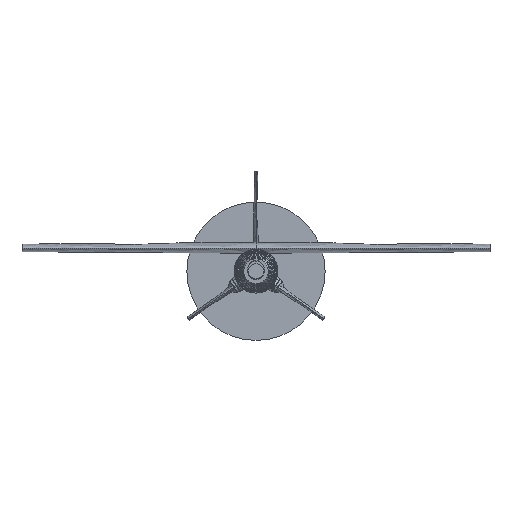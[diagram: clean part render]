
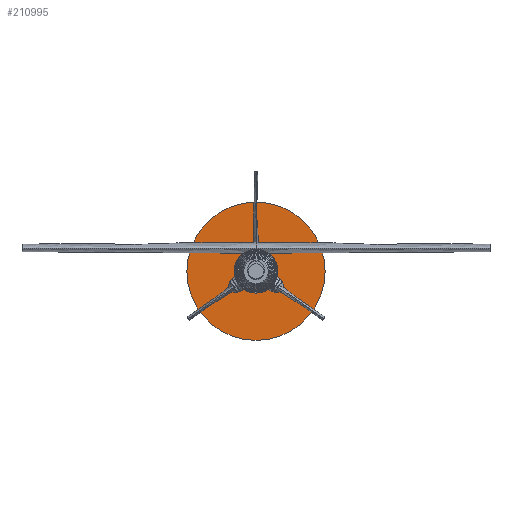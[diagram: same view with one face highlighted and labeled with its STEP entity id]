
A CAD part, left-side view. The second image highlights one B-rep face of the part: STEP entity #210995.
In plain terms, the highlighted planar face has unit normal (-1, 0, 0).
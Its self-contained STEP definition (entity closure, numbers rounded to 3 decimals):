
#210917 = CYLINDRICAL_SURFACE('',#210918,63.5);
#210918 = AXIS2_PLACEMENT_3D('',#210919,#210920,#210921);
#210919 = CARTESIAN_POINT('',(467.55,0.,0.));
#210920 = DIRECTION('',(1.,0.,0.));
#210921 = DIRECTION('',(-0.,0.,1.));
#210942 = VERTEX_POINT('',#210943);
#210943 = CARTESIAN_POINT('',(467.55,0.,63.5));
#210964 = EDGE_CURVE('',#210942,#210942,#210965,.T.);
#210965 = SURFACE_CURVE('',#210966,(#210971,#210978),.PCURVE_S1.);
#210966 = CIRCLE('',#210967,63.5);
#210967 = AXIS2_PLACEMENT_3D('',#210968,#210969,#210970);
#210968 = CARTESIAN_POINT('',(467.55,0.,0.));
#210969 = DIRECTION('',(1.,0.,0.));
#210970 = DIRECTION('',(-0.,0.,1.));
#210971 = PCURVE('',#210917,#210972);
#210972 = DEFINITIONAL_REPRESENTATION('',(#210973),#210977);
#210973 = LINE('',#210974,#210975);
#210974 = CARTESIAN_POINT('',(0.,0.));
#210975 = VECTOR('',#210976,1.);
#210976 = DIRECTION('',(1.,0.));
#210977 = ( GEOMETRIC_REPRESENTATION_CONTEXT(2) 
PARAMETRIC_REPRESENTATION_CONTEXT() REPRESENTATION_CONTEXT('2D SPACE',''
  ) );
#210978 = PCURVE('',#210979,#210984);
#210979 = PLANE('',#210980);
#210980 = AXIS2_PLACEMENT_3D('',#210981,#210982,#210983);
#210981 = CARTESIAN_POINT('',(467.55,0.,0.));
#210982 = DIRECTION('',(1.,0.,0.));
#210983 = DIRECTION('',(-0.,0.,1.));
#210984 = DEFINITIONAL_REPRESENTATION('',(#210985),#210989);
#210985 = CIRCLE('',#210986,63.5);
#210986 = AXIS2_PLACEMENT_2D('',#210987,#210988);
#210987 = CARTESIAN_POINT('',(0.,0.));
#210988 = DIRECTION('',(1.,0.));
#210989 = ( GEOMETRIC_REPRESENTATION_CONTEXT(2) 
PARAMETRIC_REPRESENTATION_CONTEXT() REPRESENTATION_CONTEXT('2D SPACE',''
  ) );
#210995 = ADVANCED_FACE('',(#210996),#210979,.F.);
#210996 = FACE_BOUND('',#210997,.T.);
#210997 = EDGE_LOOP('',(#210998));
#210998 = ORIENTED_EDGE('',*,*,#210964,.F.);
